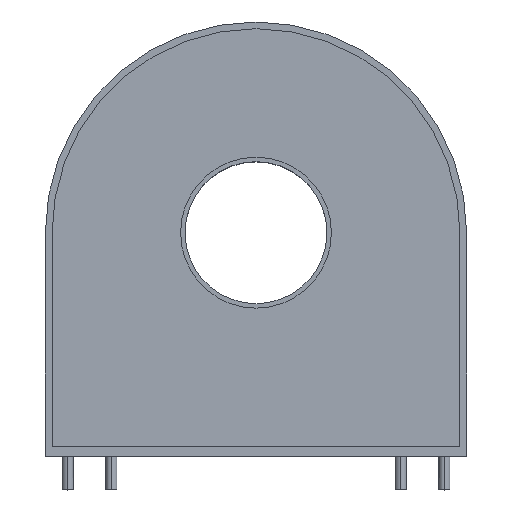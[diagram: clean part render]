
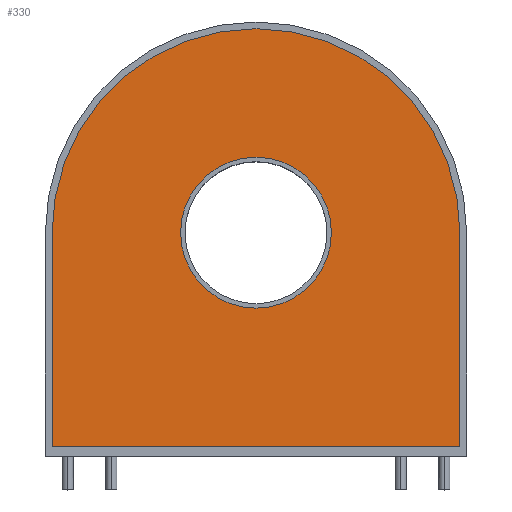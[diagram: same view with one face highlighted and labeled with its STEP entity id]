
A CAD part, top view. The second image highlights one B-rep face of the part: STEP entity #330.
In plain terms, the highlighted planar face has unit normal (0, 0, 1).
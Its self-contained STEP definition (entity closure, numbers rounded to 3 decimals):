
#78 = DIRECTION ( 'NONE',  ( 1., 0., 0. ) ) ;
#84 = CIRCLE ( 'NONE', #1029, 6.75 ) ;
#139 = CARTESIAN_POINT ( 'NONE',  ( 0., 0., 13.7 ) ) ;
#169 = ORIENTED_EDGE ( 'NONE', *, *, #1078, .F. ) ;
#195 = CARTESIAN_POINT ( 'NONE',  ( -18.25, -19.1, 13.7 ) ) ;
#205 = CARTESIAN_POINT ( 'NONE',  ( -18.25, -19.1, 13.7 ) ) ;
#283 = CARTESIAN_POINT ( 'NONE',  ( 6.75, 0., 13.7 ) ) ;
#304 = CARTESIAN_POINT ( 'NONE',  ( 0., 0., 13.7 ) ) ;
#324 = CARTESIAN_POINT ( 'NONE',  ( -18.25, 0., 13.7 ) ) ;
#330 = ADVANCED_FACE ( 'NONE', ( #399, #383 ), #1095, .T. ) ;
#340 = EDGE_CURVE ( 'NONE', #712, #937, #84, .T. ) ;
#346 = ORIENTED_EDGE ( 'NONE', *, *, #1054, .T. ) ;
#353 = AXIS2_PLACEMENT_3D ( 'NONE', #139, #973, #966 ) ;
#367 = CARTESIAN_POINT ( 'NONE',  ( 18.25, -19.1, 13.7 ) ) ;
#373 = AXIS2_PLACEMENT_3D ( 'NONE', #557, #738, #823 ) ;
#377 = CARTESIAN_POINT ( 'NONE',  ( 0., 0., 13.7 ) ) ;
#383 = FACE_OUTER_BOUND ( 'NONE', #629, .T. ) ;
#386 = DIRECTION ( 'NONE',  ( 1., 0., 0. ) ) ;
#399 = FACE_BOUND ( 'NONE', #881, .T. ) ;
#462 = LINE ( 'NONE', #367, #1065 ) ;
#477 = AXIS2_PLACEMENT_3D ( 'NONE', #304, #763, #78 ) ;
#506 = EDGE_CURVE ( 'NONE', #620, #626, #603, .T. ) ;
#508 = VERTEX_POINT ( 'NONE', #983 ) ;
#520 = EDGE_CURVE ( 'NONE', #626, #994, #826, .T. ) ;
#531 = DIRECTION ( 'NONE',  ( 1., 0., 0. ) ) ;
#538 = DIRECTION ( 'NONE',  ( 0., 1., 0. ) ) ;
#552 = VECTOR ( 'NONE', #386, 1000. ) ;
#557 = CARTESIAN_POINT ( 'NONE',  ( 0., 0., 13.7 ) ) ;
#576 = ORIENTED_EDGE ( 'NONE', *, *, #506, .T. ) ;
#603 = CIRCLE ( 'NONE', #373, 18.25 ) ;
#620 = VERTEX_POINT ( 'NONE', #664 ) ;
#626 = VERTEX_POINT ( 'NONE', #324 ) ;
#629 = EDGE_LOOP ( 'NONE', ( #346, #865, #576, #859 ) ) ;
#635 = CARTESIAN_POINT ( 'NONE',  ( -6.75, 0., 13.7 ) ) ;
#664 = CARTESIAN_POINT ( 'NONE',  ( 18.25, 0., 13.7 ) ) ;
#712 = VERTEX_POINT ( 'NONE', #635 ) ;
#738 = DIRECTION ( 'NONE',  ( 0., 0., 1. ) ) ;
#763 = DIRECTION ( 'NONE',  ( 0., 0., 1. ) ) ;
#772 = VECTOR ( 'NONE', #974, 1000. ) ;
#786 = DIRECTION ( 'NONE',  ( 0., 0., 1. ) ) ;
#789 = ORIENTED_EDGE ( 'NONE', *, *, #340, .F. ) ;
#804 = CARTESIAN_POINT ( 'NONE',  ( -18.25, -19.1, 13.7 ) ) ;
#823 = DIRECTION ( 'NONE',  ( 1., 0., 0. ) ) ;
#826 = LINE ( 'NONE', #205, #772 ) ;
#859 = ORIENTED_EDGE ( 'NONE', *, *, #520, .T. ) ;
#865 = ORIENTED_EDGE ( 'NONE', *, *, #944, .T. ) ;
#881 = EDGE_LOOP ( 'NONE', ( #169, #789 ) ) ;
#937 = VERTEX_POINT ( 'NONE', #283 ) ;
#944 = EDGE_CURVE ( 'NONE', #508, #620, #462, .T. ) ;
#966 = DIRECTION ( 'NONE',  ( 1., 0., 0. ) ) ;
#973 = DIRECTION ( 'NONE',  ( 0., 0., 1. ) ) ;
#974 = DIRECTION ( 'NONE',  ( 0., -1., 0. ) ) ;
#983 = CARTESIAN_POINT ( 'NONE',  ( 18.25, -19.1, 13.7 ) ) ;
#994 = VERTEX_POINT ( 'NONE', #804 ) ;
#1010 = LINE ( 'NONE', #195, #552 ) ;
#1029 = AXIS2_PLACEMENT_3D ( 'NONE', #377, #786, #531 ) ;
#1032 = CIRCLE ( 'NONE', #477, 6.75 ) ;
#1054 = EDGE_CURVE ( 'NONE', #994, #508, #1010, .T. ) ;
#1065 = VECTOR ( 'NONE', #538, 1000. ) ;
#1078 = EDGE_CURVE ( 'NONE', #937, #712, #1032, .T. ) ;
#1095 = PLANE ( 'NONE',  #353 ) ;
